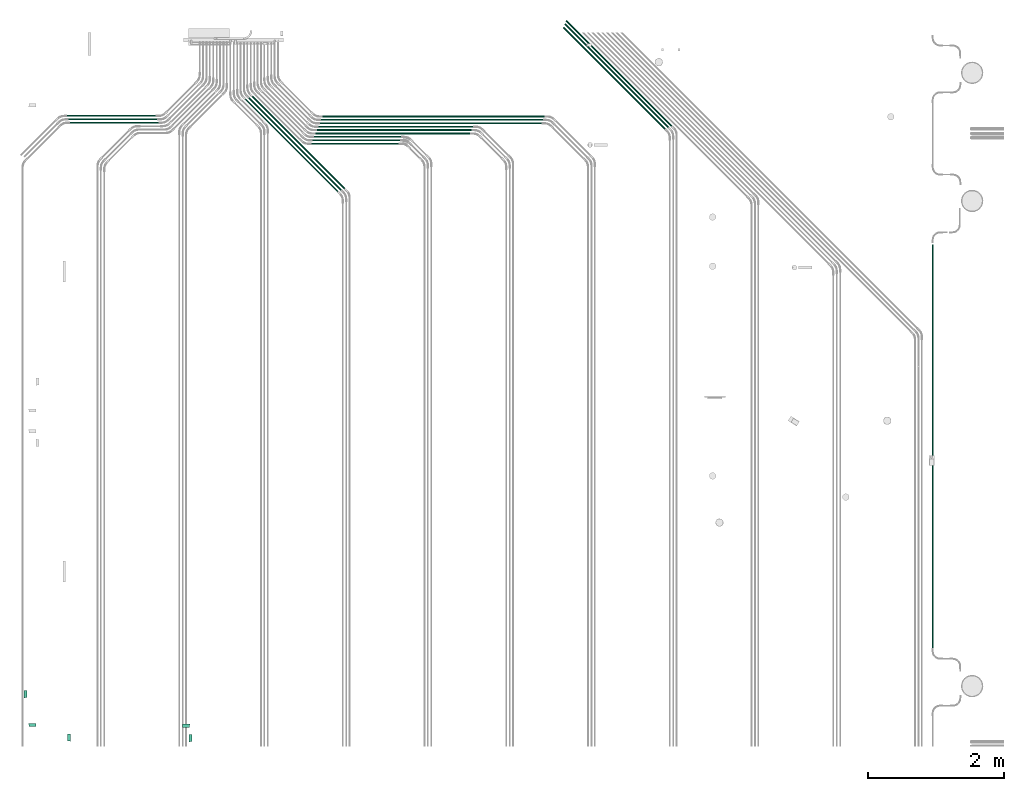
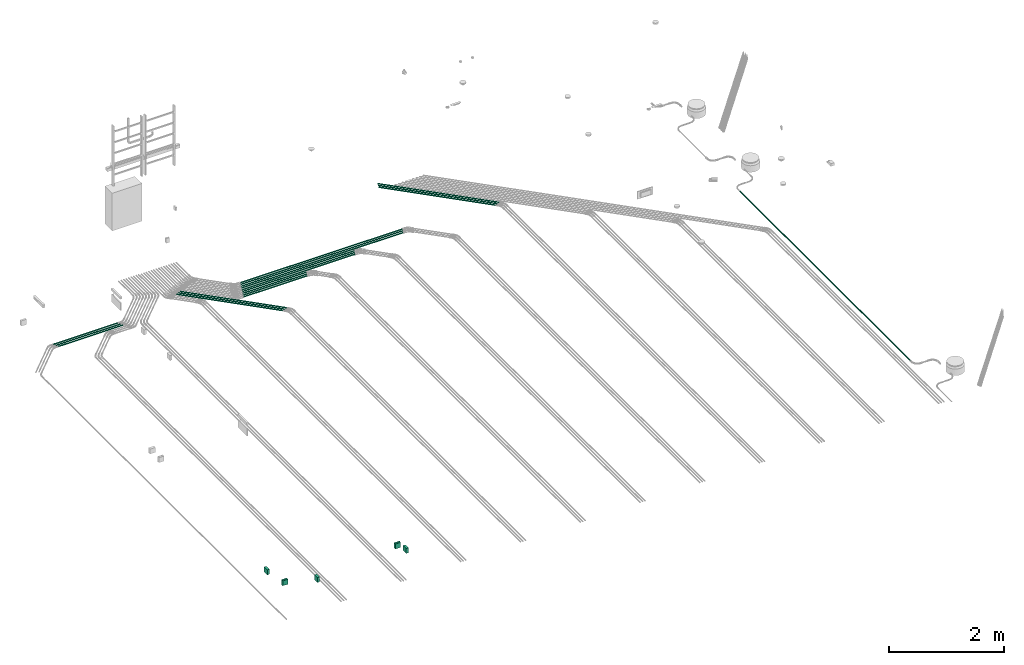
# One storey, part 1 of 51: 19 flow segments, 5 flow fittings.
"""IFC2X3 building model written with IfcOpenShell, lengths in millimetres."""

from ifc_helpers import new_model, entity, si_unit, converted_unit, derived_unit, direction, frame, origin_with_axes, origin_2d_with_axis, place, context, subcontext, project, spatial, hollow_circle, extrude, open_shell, surface_model, source, transform, mapped, type_object, element, save


model = new_model("IFC2X3")

# Units and contexts
model_context = context("Model", 3, precision=0.01, world=frame((0.0, 4.29681676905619e-09, 0.0)), true_north=direction((4.01073788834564e-13, 1.0)))
plan_context = context("Plan", 3, precision=0.01, world=frame((0.0, 4.29681676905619e-09, 0.0)), true_north=direction((4.01073788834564e-13, 1.0)))
body_context = subcontext(model_context, "Body", "Model", "MODEL_VIEW")
ifc_project = project(units=[converted_unit("PLANEANGLEUNIT", "DEGREE", entity("IfcPositiveLengthMeasure", 0.0174532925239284), si_unit("PLANEANGLEUNIT", "RADIAN"), dimensions=[0, 0, 0, 0, 0, 0, 0]), si_unit("AREAUNIT", "SQUARE_METRE"), si_unit("LENGTHUNIT", "METRE", prefix="MILLI"), si_unit("MASSUNIT", "GRAM", prefix="KILO"), si_unit("POWERUNIT", "WATT"), si_unit("PRESSUREUNIT", "PASCAL"), si_unit("FORCEUNIT", "NEWTON", prefix="KILO"), si_unit("ELECTRICVOLTAGEUNIT", "VOLT"), si_unit("ELECTRICCURRENTUNIT", "AMPERE"), si_unit("THERMODYNAMICTEMPERATUREUNIT", "DEGREE_CELSIUS"), si_unit("TIMEUNIT", "SECOND"), si_unit("VOLUMEUNIT", "CUBIC_METRE"), derived_unit("LINEARVELOCITYUNIT", [(si_unit("LENGTHUNIT", "METRE"), 1), (si_unit("TIMEUNIT", "SECOND"), -1)]), derived_unit("VOLUMETRICFLOWRATEUNIT", [(si_unit("VOLUMEUNIT", "CUBIC_METRE"), 1), (si_unit("TIMEUNIT", "SECOND"), -1)]), derived_unit("THERMALTRANSMITTANCEUNIT", [(si_unit("POWERUNIT", "WATT"), 1), (si_unit("THERMODYNAMICTEMPERATUREUNIT", "KELVIN"), -1), (si_unit("AREAUNIT", "SQUARE_METRE"), -1)]), derived_unit("SOUNDPRESSUREUNIT", [(si_unit("PRESSUREUNIT", "PASCAL"), 1)])], contexts=[model_context, plan_context])

# Site, building, storey
site_placement = place(None, frame((0.0, -4.29681676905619e-09, 0.0), z_axis=(0.0, 0.0, 1.0), x_axis=(1.0, 0.0, 0.0)))
site = spatial("IfcSite", under=ifc_project, at=site_placement, Name="ENGM", CompositionType="ELEMENT")
building_placement = place(site_placement, frame((0.0, 4.29681676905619e-09, 0.0), z_axis=(0.0, 0.0, 1.0), x_axis=(1.0, 0.0, 0.0)))
building = spatial("IfcBuilding", under=site, at=building_placement, Name="TI", CompositionType="ELEMENT")
storey_placement = place(building_placement, frame((0.0, 0.0, 210900.0), z_axis=(0.0, 0.0, 1.0), x_axis=(1.0, 0.0, 0.0)))
storey = spatial("IfcBuildingStorey", under=building, at=storey_placement, Name="Nivå F", CompositionType="ELEMENT", Elevation=210900.0)

# Flow fittings
junction_box_type = type_object("IfcJunctionBoxType", Name="Koblingsboks åpen", PredefinedType="NOTDEFINED")
shared_shape_1 = source(origin_with_axes(), body_context, "Body", "SurfaceModel", [
    surface_model("IfcShellBasedSurfaceModel", [(-55.0, 46.0, 55.0), (-55.0, 32.2, 55.0), (55.0, 32.2, 55.0), (55.0, 46.0, 55.0), (55.0, 46.0, -55.0), (55.0, 32.2, -55.0), (-55.0, 32.2, -55.0), (-55.0, 46.0, -55.0), (-52.0, 32.2, 52.0), (-52.0, 0.0, 52.0), (52.0, 0.0, 52.0), (52.0, 32.2, 52.0), (52.0, 32.2, -52.0), (52.0, 0.0, -52.0), (-52.0, 0.0, -52.0), (-52.0, 32.2, -52.0)], [open_shell([[[0, 1, 2]], [[2, 3, 0]], [[4, 5, 6]], [[6, 7, 4]], [[2, 1, 6]], [[6, 5, 2]], [[3, 2, 5]], [[5, 4, 3]], [[0, 3, 4]], [[4, 7, 0]], [[1, 0, 7]], [[7, 6, 1]], [[8, 9, 10]], [[10, 11, 8]], [[12, 13, 14]], [[14, 15, 12]], [[10, 9, 14]], [[14, 13, 10]], [[11, 10, 13]], [[13, 12, 11]], [[8, 11, 12]], [[12, 15, 8]], [[9, 8, 15]], [[15, 14, 9]]])]),
])
for number, where, z_axis, x_axis in (
    (1, (598170.0118, 689292.0, 500.0), (0.0, 0.0, 1.0), (1.0, 0.0, 0.0)),
    (2, (598687.00048, 689130.0, 500.0), (0.0, 0.0, 1.0), (0.0, -1.0, 0.0)),
    (3, (600513.0, 689123.38726, 500.0), (0.0, 0.0, 1.0), (0.0, 1.0, 0.0)),
    (4, (598094.50379, 689768.46813, 500.0), (0.0, 0.0, 1.0), (0.0, 1.0, 0.0)),
    (5, (600425.07937, 689280.0, 500.0), (0.0, 0.0, 1.0), (1.0, 0.0, 0.0)),
):
    element("IfcFlowFitting", number, at=place(storey_placement, frame(where, z_axis=z_axis, x_axis=x_axis)), inside=storey, type_object=junction_box_type, Name="Koblingsboks åpen", context=body_context, shape_type="MappedRepresentation", body=[
        mapped(shared_shape_1, transform((0.0, 0.0, 0.0), scale=1.0)),
    ])

# Flow segments
cable_carrier_segment_type = type_object("IfcCableCarrierSegmentType", Name="Trekkerør, korrugert", PredefinedType="CONDUITSEGMENT")
shared_shape_2 = source(origin_with_axes(), body_context, "Body", "SweptSolid", [
    extrude(hollow_circle(Radius=12.5, WallThickness=2.0, at=origin_2d_with_axis()), frame((0.0, 0.0, 0.0), z_axis=(1.0, 0.0, 0.0), x_axis=(0.0, 1.0, 0.0)), (0.0, 0.0, 1.0), 5924.1),
])
flow_segment_1_placement = place(storey_placement, frame((611382.66348, 690442.23934, -110.0), z_axis=(0.0, 0.0, 1.0), x_axis=(0.0, 1.0, 0.0)))
element("IfcFlowSegment", 6, at=flow_segment_1_placement, inside=storey, type_object=cable_carrier_segment_type, Name="Trekkerør, korrugert", context=body_context, shape_type="MappedRepresentation", body=[
    mapped(shared_shape_2, transform((0.0, 0.0, 0.0), scale=1.0)),
])
shared_shape_3 = source(origin_with_axes(), body_context, "Body", "SweptSolid", [
    extrude(hollow_circle(Radius=12.5, WallThickness=2.0, at=origin_2d_with_axis()), frame((0.0, 0.0, 0.0), z_axis=(1.0, 0.0, 0.0), x_axis=(0.0, 1.0, 0.0)), (0.0, 0.0, 1.0), 3254.0),
])
for number, where, z_axis, x_axis in (
    (7, (605683.44472, 698246.14175, -56.7999999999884), (0.0, 0.0, 1.0), (-1.0, 0.0, 0.0)),
    (8, (605662.73404, 698196.14175, -56.7999999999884), (0.0, 0.0, 1.0), (-1.0, 0.0, 0.0)),
    (9, (605642.02337, 698146.14175, -56.7999999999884), (0.0, 0.0, 1.0), (-1.0, 0.0, 0.0)),
):
    element("IfcFlowSegment", number, at=place(storey_placement, frame(where, z_axis=z_axis, x_axis=x_axis)), inside=storey, type_object=cable_carrier_segment_type, Name="Trekkerør, korrugert", context=body_context, shape_type="MappedRepresentation", body=[
        mapped(shared_shape_3, transform((0.0, 0.0, 0.0), scale=1.0)),
    ])
shared_shape_4 = source(origin_with_axes(), body_context, "Body", "SweptSolid", [
    extrude(hollow_circle(Radius=12.5, WallThickness=2.0, at=origin_2d_with_axis()), frame((0.0, 0.0, 0.0), z_axis=(1.0, 0.0, 0.0), x_axis=(0.0, 1.0, 0.0)), (0.0, 0.0, 1.0), 2266.1),
])
for number, where, z_axis, x_axis in (
    (10, (604633.44472, 698096.14175, -56.7999999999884), (0.0, 0.0, 1.0), (-1.0, 0.0, 0.0)),
    (11, (604612.73404, 698046.14175, -56.7999999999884), (0.0, 0.0, 1.0), (-1.0, 0.0, 0.0)),
    (12, (604592.02337, 697996.14175, -56.7999999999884), (0.0, 0.0, 1.0), (-1.0, 0.0, 0.0)),
):
    element("IfcFlowSegment", number, at=place(storey_placement, frame(where, z_axis=z_axis, x_axis=x_axis)), inside=storey, type_object=cable_carrier_segment_type, Name="Trekkerør, korrugert", context=body_context, shape_type="MappedRepresentation", body=[
        mapped(shared_shape_4, transform((0.0, 0.0, 0.0), scale=1.0)),
    ])
shared_shape_5 = source(origin_with_axes(), body_context, "Body", "SweptSolid", [
    extrude(hollow_circle(Radius=12.5, WallThickness=2.0, at=origin_2d_with_axis()), frame((0.0, 0.0, 0.0), z_axis=(1.0, 0.0, 0.0), x_axis=(0.0, 1.0, 0.0)), (0.0, 0.0, 1.0), 2188.7),
])
flow_segment_2_placement = place(storey_placement, frame((607552.53125, 698105.30728, -56.7999999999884), z_axis=(0.0, 0.0, 1.0), x_axis=(-0.707106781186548, 0.707106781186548, 0.0)))
element("IfcFlowSegment", 13, at=flow_segment_2_placement, inside=storey, type_object=cable_carrier_segment_type, Name="Trekkerør, korrugert", context=body_context, shape_type="MappedRepresentation", body=[
    mapped(shared_shape_5, transform((0.0, 0.0, 0.0), scale=1.0)),
])
shared_shape_6 = source(origin_with_axes(), body_context, "Body", "SweptSolid", [
    extrude(hollow_circle(Radius=12.5, WallThickness=2.0, at=origin_2d_with_axis()), frame((0.0, 0.0, 0.0), z_axis=(1.0, 0.0, 0.0), x_axis=(0.0, 1.0, 0.0)), (0.0, 0.0, 1.0), 1278.2),
])
for number, where, z_axis, x_axis in (
    (14, (603583.44472, 697946.14175, -56.7999999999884), (0.0, 0.0, 1.0), (-1.0, 0.0, 0.0)),
    (15, (603562.73404, 697896.14175, -56.7999999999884), (0.0, 0.0, 1.0), (-1.0, 0.0, 0.0)),
    (16, (603542.02337, 697846.14175, -56.7999999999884), (0.0, 0.0, 1.0), (-1.0, 0.0, 0.0)),
):
    element("IfcFlowSegment", number, at=place(storey_placement, frame(where, z_axis=z_axis, x_axis=x_axis)), inside=storey, type_object=cable_carrier_segment_type, Name="Trekkerør, korrugert", context=body_context, shape_type="MappedRepresentation", body=[
        mapped(shared_shape_6, transform((0.0, 0.0, 0.0), scale=1.0)),
    ])
shared_shape_7 = source(origin_with_axes(), body_context, "Body", "SweptSolid", [
    extrude(hollow_circle(Radius=12.5, WallThickness=2.0, at=origin_2d_with_axis()), frame((0.0, 0.0, 0.0), z_axis=(1.0, 0.0, 0.0), x_axis=(0.0, 1.0, 0.0)), (0.0, 0.0, 1.0), 2147.3),
])
flow_segment_3_placement = place(storey_placement, frame((607502.53125, 698084.5966, -56.7999999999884), z_axis=(0.0, 0.0, 1.0), x_axis=(-0.707106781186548, 0.707106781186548, 0.0)))
element("IfcFlowSegment", 17, at=flow_segment_3_placement, inside=storey, type_object=cable_carrier_segment_type, Name="Trekkerør, korrugert", context=body_context, shape_type="MappedRepresentation", body=[
    mapped(shared_shape_7, transform((0.0, 0.0, 0.0), scale=1.0)),
])
shared_shape_8 = source(origin_with_axes(), body_context, "Body", "SweptSolid", [
    extrude(hollow_circle(Radius=12.5, WallThickness=2.0, at=origin_2d_with_axis()), frame((0.0, 0.0, 0.0), z_axis=(1.0, 0.0, 0.0), x_axis=(0.0, 1.0, 0.0)), (0.0, 0.0, 1.0), 2105.8),
])
flow_segment_4_placement = place(storey_placement, frame((607452.53125, 698063.88592, -56.7999999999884), z_axis=(0.0, 0.0, 1.0), x_axis=(-0.707106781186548, 0.707106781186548, 0.0)))
element("IfcFlowSegment", 18, at=flow_segment_4_placement, inside=storey, type_object=cable_carrier_segment_type, Name="Trekkerør, korrugert", context=body_context, shape_type="MappedRepresentation", body=[
    mapped(shared_shape_8, transform((0.0, 0.0, 0.0), scale=1.0)),
])
shared_shape_9 = source(origin_with_axes(), body_context, "Body", "SweptSolid", [
    extrude(hollow_circle(Radius=12.5, WallThickness=2.0, at=origin_2d_with_axis()), frame((0.0, 0.0, 0.0), z_axis=(1.0, 0.0, 0.0), x_axis=(0.0, 1.0, 0.0)), (0.0, 0.0, 1.0), 1917.8),
])
for number, where, z_axis, x_axis in (
    (19, (601396.81836, 698540.50088, -56.7999999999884), (0.0, 0.0, 1.0), (0.707097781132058, -0.707115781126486, 0.0)),
    (20, (601346.81836, 698519.7902, -56.7999999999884), (0.0, 0.0, 1.0), (0.707097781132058, -0.707115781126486, 0.0)),
    (21, (601296.81836, 698499.07952, -56.7999999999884), (0.0, 0.0, 1.0), (0.707097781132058, -0.707115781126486, 0.0)),
):
    element("IfcFlowSegment", number, at=place(storey_placement, frame(where, z_axis=z_axis, x_axis=x_axis)), inside=storey, type_object=cable_carrier_segment_type, Name="Trekkerør, korrugert", context=body_context, shape_type="MappedRepresentation", body=[
        mapped(shared_shape_9, transform((0.0, 0.0, 0.0), scale=1.0)),
    ])
shared_shape_10 = source(origin_with_axes(), body_context, "Body", "SweptSolid", [
    extrude(hollow_circle(Radius=12.5, WallThickness=2.0, at=origin_2d_with_axis()), frame((0.0, 0.0, 0.0), z_axis=(1.0, 0.0, 0.0), x_axis=(0.0, 1.0, 0.0)), (0.0, 0.0, 1.0), 1296.2),
])
for number, where, z_axis, x_axis in (
    (22, (598723.04821, 698154.50648, -56.7999999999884), (0.0, 0.0, 1.0), (1.0, 0.0, 0.0)),
    (23, (598702.33753, 698204.50648, -56.7999999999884), (0.0, 0.0, 1.0), (1.0, 0.0, 0.0)),
    (24, (598681.62685, 698254.50648, -56.7999999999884), (0.0, 0.0, 1.0), (1.0, 0.0, 0.0)),
):
    element("IfcFlowSegment", number, at=place(storey_placement, frame(where, z_axis=z_axis, x_axis=x_axis)), inside=storey, type_object=cable_carrier_segment_type, Name="Trekkerør, korrugert", context=body_context, shape_type="MappedRepresentation", body=[
        mapped(shared_shape_10, transform((0.0, 0.0, 0.0), scale=1.0)),
    ])

save(model, "model.ifc")
